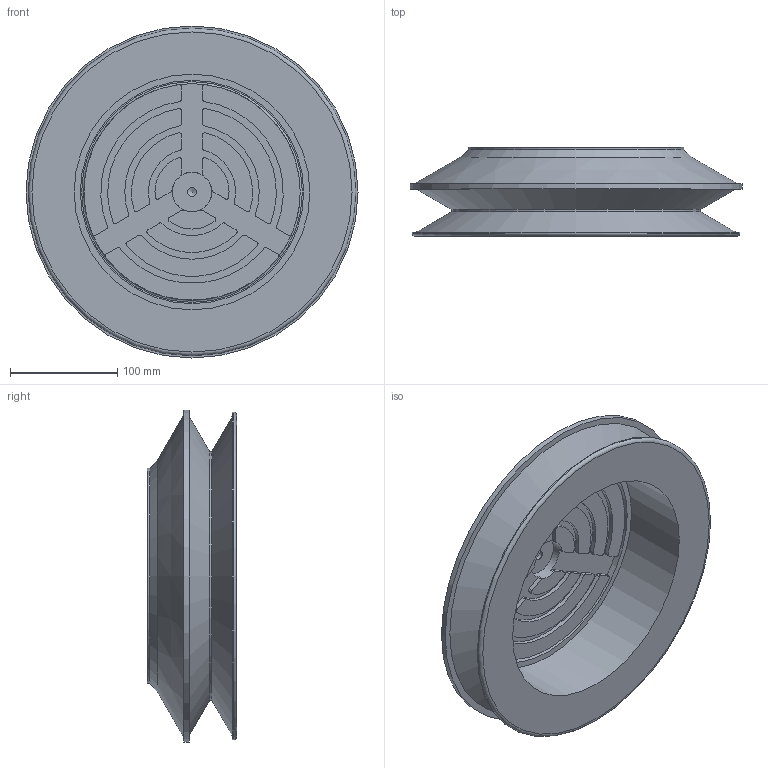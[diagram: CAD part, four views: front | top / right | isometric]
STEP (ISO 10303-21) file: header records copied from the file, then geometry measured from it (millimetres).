
FILE_DESCRIPTION(/* description */ (''),/* implementation_level */ '2;1');
FILE_NAME(/* name */ 'W:\Technik\Konstruktion\CAD-Daten\Vakuumsauger\22_\22.300.091\22.300.091_Kd neu.stp',/* time_stamp */ '2017-07-17T10:37:58+02:00',/* author */ ('DFloßmann'),/* organization */ (''),/* preprocessor_version */ 'ST-DEVELOPER v16.5',/* originating_system */ 'Autodesk Inventor 2017',/* authorisation */ '');
FILE_SCHEMA (('AUTOMOTIVE_DESIGN { 1 0 10303 214 3 1 1 }'));
Length unit declared in the file: millimetre
Products named in the file (3): 22.300.091_Kd neu; 22.300.091_Kd; 22.300.091
Assembly tree (2 placements, depth 2):
  22.300.091_Kd neu
    22.300.091_Kd
    22.300.091
Bounding box: 310 x 83.13 x 310 mm (x, y, z)
Volume: 2021757.8 mm3; surface area: 375479.7 mm2
Topology: 2 solids, 2 shells, 135 faces, 343 edges, 226 vertices
Faces by surface type: cylinder 78, plane 48, cone 5, torus 4
Full cylindrical faces by diameter (mm): 8 x2, 37 x1, 200 x2, 201 x1, 202 x1, 208.5 x1, 220 x1, 232 x1, 306 x1, 310 x1
Entity records: 4093 total; most frequent: DIRECTION 772, CARTESIAN_POINT 680, ORIENTED_EDGE 636, EDGE_CURVE 318, AXIS2_PLACEMENT_3D 314, VERTEX_POINT 222, CIRCLE 174, EDGE_LOOP 172
